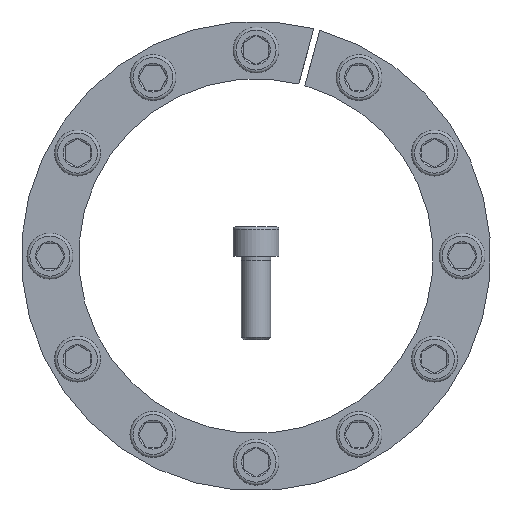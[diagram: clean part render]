
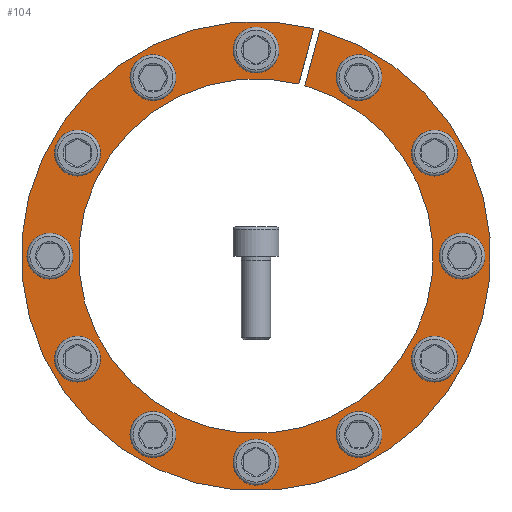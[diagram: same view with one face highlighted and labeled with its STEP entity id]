
A CAD part, front view. The second image highlights one B-rep face of the part: STEP entity #104.
In plain terms, the highlighted planar face has unit normal (0, -1, 0).
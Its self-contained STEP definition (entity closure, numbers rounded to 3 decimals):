
#104 = ADVANCED_FACE( '', ( #232, #233, #234, #235, #236, #237, #238, #239, #240, #241, #242, #243, #244 ), #245, .F. );
#232 = FACE_BOUND( '', #450, .T. );
#233 = FACE_BOUND( '', #451, .T. );
#234 = FACE_BOUND( '', #452, .T. );
#235 = FACE_BOUND( '', #453, .T. );
#236 = FACE_BOUND( '', #454, .T. );
#237 = FACE_BOUND( '', #455, .T. );
#238 = FACE_OUTER_BOUND( '', #456, .T. );
#239 = FACE_BOUND( '', #457, .T. );
#240 = FACE_BOUND( '', #458, .T. );
#241 = FACE_BOUND( '', #459, .T. );
#242 = FACE_BOUND( '', #460, .T. );
#243 = FACE_BOUND( '', #461, .T. );
#244 = FACE_BOUND( '', #462, .T. );
#245 = PLANE( '', #463 );
#450 = EDGE_LOOP( '', ( #742 ) );
#451 = EDGE_LOOP( '', ( #743 ) );
#452 = EDGE_LOOP( '', ( #744 ) );
#453 = EDGE_LOOP( '', ( #745 ) );
#454 = EDGE_LOOP( '', ( #746 ) );
#455 = EDGE_LOOP( '', ( #747 ) );
#456 = EDGE_LOOP( '', ( #748, #749, #750, #751 ) );
#457 = EDGE_LOOP( '', ( #752 ) );
#458 = EDGE_LOOP( '', ( #753 ) );
#459 = EDGE_LOOP( '', ( #754 ) );
#460 = EDGE_LOOP( '', ( #755 ) );
#461 = EDGE_LOOP( '', ( #756 ) );
#462 = EDGE_LOOP( '', ( #757 ) );
#463 = AXIS2_PLACEMENT_3D( '', #758, #759, #760 );
#742 = ORIENTED_EDGE( '', *, *, #1059, .T. );
#743 = ORIENTED_EDGE( '', *, *, #1060, .T. );
#744 = ORIENTED_EDGE( '', *, *, #1061, .T. );
#745 = ORIENTED_EDGE( '', *, *, #1062, .T. );
#746 = ORIENTED_EDGE( '', *, *, #1063, .T. );
#747 = ORIENTED_EDGE( '', *, *, #1048, .T. );
#748 = ORIENTED_EDGE( '', *, *, #1041, .F. );
#749 = ORIENTED_EDGE( '', *, *, #1036, .F. );
#750 = ORIENTED_EDGE( '', *, *, #1064, .T. );
#751 = ORIENTED_EDGE( '', *, *, #1065, .F. );
#752 = ORIENTED_EDGE( '', *, *, #1019, .T. );
#753 = ORIENTED_EDGE( '', *, *, #1013, .T. );
#754 = ORIENTED_EDGE( '', *, *, #1066, .T. );
#755 = ORIENTED_EDGE( '', *, *, #1067, .T. );
#756 = ORIENTED_EDGE( '', *, *, #1068, .T. );
#757 = ORIENTED_EDGE( '', *, *, #1069, .T. );
#758 = CARTESIAN_POINT( '', ( 0., 0., 112.5 ) );
#759 = DIRECTION( '', ( 0., 1., 0. ) );
#760 = DIRECTION( '', ( 0., 0., 1. ) );
#1013 = EDGE_CURVE( '', #1191, #1191, #1192, .T. );
#1019 = EDGE_CURVE( '', #1201, #1201, #1202, .T. );
#1036 = EDGE_CURVE( '', #1229, #1231, #1232, .T. );
#1041 = EDGE_CURVE( '', #1231, #1239, #1240, .T. );
#1048 = EDGE_CURVE( '', #1250, #1250, #1251, .T. );
#1059 = EDGE_CURVE( '', #1267, #1267, #1268, .T. );
#1060 = EDGE_CURVE( '', #1269, #1269, #1270, .T. );
#1061 = EDGE_CURVE( '', #1271, #1271, #1272, .T. );
#1062 = EDGE_CURVE( '', #1273, #1273, #1274, .T. );
#1063 = EDGE_CURVE( '', #1275, #1275, #1276, .T. );
#1064 = EDGE_CURVE( '', #1229, #1277, #1278, .T. );
#1065 = EDGE_CURVE( '', #1239, #1277, #1279, .T. );
#1066 = EDGE_CURVE( '', #1280, #1280, #1281, .T. );
#1067 = EDGE_CURVE( '', #1282, #1282, #1283, .T. );
#1068 = EDGE_CURVE( '', #1284, #1284, #1285, .T. );
#1069 = EDGE_CURVE( '', #1286, #1286, #1287, .T. );
#1191 = VERTEX_POINT( '', #1518 );
#1192 = CIRCLE( '', #1519, 7. );
#1201 = VERTEX_POINT( '', #1528 );
#1202 = CIRCLE( '', #1529, 7. );
#1229 = VERTEX_POINT( '', #1570 );
#1231 = VERTEX_POINT( '', #1573 );
#1232 = LINE( '', #1574, #1575 );
#1239 = VERTEX_POINT( '', #1584 );
#1240 = CIRCLE( '', #1585, 85. );
#1250 = VERTEX_POINT( '', #1596 );
#1251 = CIRCLE( '', #1597, 7. );
#1267 = VERTEX_POINT( '', #1614 );
#1268 = CIRCLE( '', #1615, 7. );
#1269 = VERTEX_POINT( '', #1616 );
#1270 = CIRCLE( '', #1617, 7. );
#1271 = VERTEX_POINT( '', #1618 );
#1272 = CIRCLE( '', #1619, 7. );
#1273 = VERTEX_POINT( '', #1620 );
#1274 = CIRCLE( '', #1621, 7. );
#1275 = VERTEX_POINT( '', #1622 );
#1276 = CIRCLE( '', #1623, 7. );
#1277 = VERTEX_POINT( '', #1624 );
#1278 = CIRCLE( '', #1625, 112.5 );
#1279 = LINE( '', #1626, #1627 );
#1280 = VERTEX_POINT( '', #1628 );
#1281 = CIRCLE( '', #1629, 7. );
#1282 = VERTEX_POINT( '', #1630 );
#1283 = CIRCLE( '', #1631, 7. );
#1284 = VERTEX_POINT( '', #1632 );
#1285 = CIRCLE( '', #1633, 7. );
#1286 = VERTEX_POINT( '', #1634 );
#1287 = CIRCLE( '', #1635, 7. );
#1518 = CARTESIAN_POINT( '', ( 98.75, 0., -7. ) );
#1519 = AXIS2_PLACEMENT_3D( '', #1764, #1765, #1766 );
#1528 = CARTESIAN_POINT( '', ( 55.437, 0., 82.02 ) );
#1529 = AXIS2_PLACEMENT_3D( '', #1776, #1777, #1778 );
#1570 = CARTESIAN_POINT( '', ( 27.666, 0., 109.045 ) );
#1573 = CARTESIAN_POINT( '', ( 20.547, 0., 82.479 ) );
#1574 = CARTESIAN_POINT( '', ( 27.668, 0., 109.055 ) );
#1575 = VECTOR( '', #1797, 1000. );
#1584 = CARTESIAN_POINT( '', ( 23.445, 0., 81.703 ) );
#1585 = AXIS2_PLACEMENT_3D( '', #1803, #1804, #1805 );
#1596 = CARTESIAN_POINT( '', ( 7., 0., 98.75 ) );
#1597 = AXIS2_PLACEMENT_3D( '', #1816, #1817, #1818 );
#1614 = CARTESIAN_POINT( '', ( -82.02, 0., 55.437 ) );
#1615 = AXIS2_PLACEMENT_3D( '', #1835, #1836, #1837 );
#1616 = CARTESIAN_POINT( '', ( -89.02, 0., -43.313 ) );
#1617 = AXIS2_PLACEMENT_3D( '', #1838, #1839, #1840 );
#1618 = CARTESIAN_POINT( '', ( -7., 0., -98.75 ) );
#1619 = AXIS2_PLACEMENT_3D( '', #1841, #1842, #1843 );
#1620 = CARTESIAN_POINT( '', ( 82.02, 0., -55.437 ) );
#1621 = AXIS2_PLACEMENT_3D( '', #1844, #1845, #1846 );
#1622 = CARTESIAN_POINT( '', ( 89.02, 0., 43.313 ) );
#1623 = AXIS2_PLACEMENT_3D( '', #1847, #1848, #1849 );
#1624 = CARTESIAN_POINT( '', ( 30.563, 0., 108.269 ) );
#1625 = AXIS2_PLACEMENT_3D( '', #1850, #1851, #1852 );
#1626 = CARTESIAN_POINT( '', ( 23.445, 0., 81.703 ) );
#1627 = VECTOR( '', #1853, 1000. );
#1628 = CARTESIAN_POINT( '', ( 43.313, 0., -89.02 ) );
#1629 = AXIS2_PLACEMENT_3D( '', #1854, #1855, #1856 );
#1630 = CARTESIAN_POINT( '', ( -55.437, 0., -82.02 ) );
#1631 = AXIS2_PLACEMENT_3D( '', #1857, #1858, #1859 );
#1632 = CARTESIAN_POINT( '', ( -98.75, 0., 7. ) );
#1633 = AXIS2_PLACEMENT_3D( '', #1860, #1861, #1862 );
#1634 = CARTESIAN_POINT( '', ( -43.313, 0., 89.02 ) );
#1635 = AXIS2_PLACEMENT_3D( '', #1863, #1864, #1865 );
#1764 = CARTESIAN_POINT( '', ( 98.75, 0., 0. ) );
#1765 = DIRECTION( '', ( 0., 1., 0. ) );
#1766 = DIRECTION( '', ( 0., 0., -1. ) );
#1776 = CARTESIAN_POINT( '', ( 49.375, 0., 85.52 ) );
#1777 = DIRECTION( '', ( 0., 1., 0. ) );
#1778 = DIRECTION( '', ( 0.866, 0., -0.5 ) );
#1797 = DIRECTION( '', ( -0.259, 0., -0.966 ) );
#1803 = CARTESIAN_POINT( '', ( 0., 0., 0. ) );
#1804 = DIRECTION( '', ( 0., -1., 0. ) );
#1805 = DIRECTION( '', ( 0., 0., -1. ) );
#1816 = CARTESIAN_POINT( '', ( 0., 0., 98.75 ) );
#1817 = DIRECTION( '', ( 0., 1., 0. ) );
#1818 = DIRECTION( '', ( 1., 0., 0. ) );
#1835 = CARTESIAN_POINT( '', ( -85.52, 0., 49.375 ) );
#1836 = DIRECTION( '', ( 0., 1., 0. ) );
#1837 = DIRECTION( '', ( 0.5, 0., 0.866 ) );
#1838 = CARTESIAN_POINT( '', ( -85.52, 0., -49.375 ) );
#1839 = DIRECTION( '', ( 0., 1., 0. ) );
#1840 = DIRECTION( '', ( -0.5, 0., 0.866 ) );
#1841 = CARTESIAN_POINT( '', ( 0., 0., -98.75 ) );
#1842 = DIRECTION( '', ( 0., 1., 0. ) );
#1843 = DIRECTION( '', ( -1., 0., 0. ) );
#1844 = CARTESIAN_POINT( '', ( 85.52, 0., -49.375 ) );
#1845 = DIRECTION( '', ( 0., 1., 0. ) );
#1846 = DIRECTION( '', ( -0.5, 0., -0.866 ) );
#1847 = CARTESIAN_POINT( '', ( 85.52, 0., 49.375 ) );
#1848 = DIRECTION( '', ( 0., 1., 0. ) );
#1849 = DIRECTION( '', ( 0.5, 0., -0.866 ) );
#1850 = CARTESIAN_POINT( '', ( 0., 0., 0. ) );
#1851 = DIRECTION( '', ( 0., -1., 0. ) );
#1852 = DIRECTION( '', ( 0., 0., -1. ) );
#1853 = DIRECTION( '', ( 0.259, 0., 0.966 ) );
#1854 = CARTESIAN_POINT( '', ( 49.375, 0., -85.52 ) );
#1855 = DIRECTION( '', ( 0., 1., 0. ) );
#1856 = DIRECTION( '', ( -0.866, 0., -0.5 ) );
#1857 = CARTESIAN_POINT( '', ( -49.375, 0., -85.52 ) );
#1858 = DIRECTION( '', ( 0., 1., 0. ) );
#1859 = DIRECTION( '', ( -0.866, 0., 0.5 ) );
#1860 = CARTESIAN_POINT( '', ( -98.75, 0., 0. ) );
#1861 = DIRECTION( '', ( 0., 1., 0. ) );
#1862 = DIRECTION( '', ( 0., 0., 1. ) );
#1863 = CARTESIAN_POINT( '', ( -49.375, 0., 85.52 ) );
#1864 = DIRECTION( '', ( 0., 1., 0. ) );
#1865 = DIRECTION( '', ( 0.866, 0., 0.5 ) );
